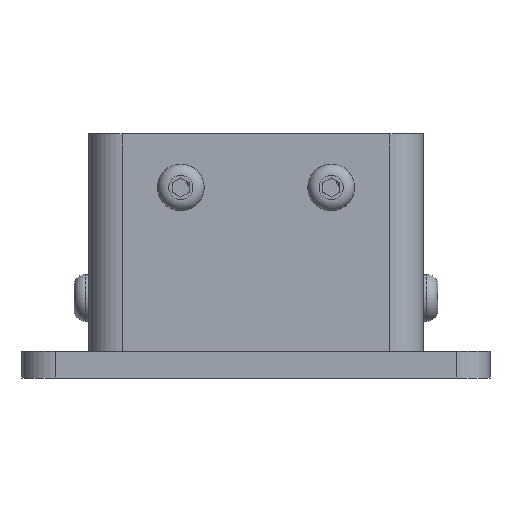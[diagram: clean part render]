
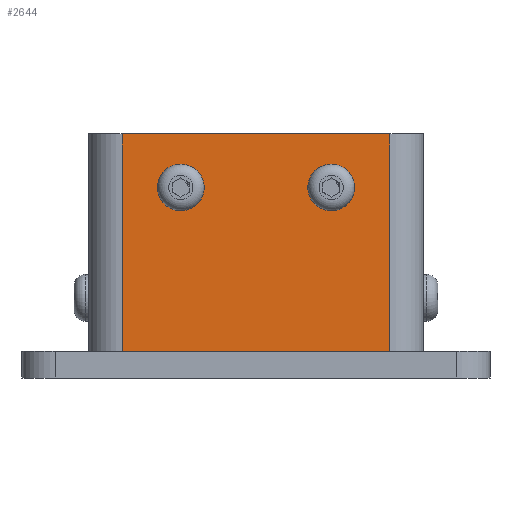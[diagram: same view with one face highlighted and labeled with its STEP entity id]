
A CAD part, left-side view. The second image highlights one B-rep face of the part: STEP entity #2644.
In plain terms, the highlighted planar face has unit normal (-1, 0, 0) as drawn and (0, 1, 0) by its records, which use the part's own axes.
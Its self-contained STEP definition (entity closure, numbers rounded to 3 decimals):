
#199=FACE_BOUND('',#698,.T.);
#200=FACE_BOUND('',#699,.T.);
#272=CIRCLE('',#2998,4.5);
#277=CIRCLE('',#3005,4.5);
#530=FACE_OUTER_BOUND('',#697,.T.);
#697=EDGE_LOOP('',(#2192,#2193,#2194,#2195));
#698=EDGE_LOOP('',(#2196));
#699=EDGE_LOOP('',(#2197));
#897=LINE('',#4540,#1087);
#913=LINE('',#4592,#1103);
#914=LINE('',#4596,#1104);
#915=LINE('',#4597,#1105);
#1087=VECTOR('',#3672,10.);
#1103=VECTOR('',#3732,10.);
#1104=VECTOR('',#3737,10.);
#1105=VECTOR('',#3738,10.);
#1229=VERTEX_POINT('',#4356);
#1234=VERTEX_POINT('',#4370);
#1295=VERTEX_POINT('',#4537);
#1296=VERTEX_POINT('',#4539);
#1310=VERTEX_POINT('',#4591);
#1311=VERTEX_POINT('',#4595);
#1515=EDGE_CURVE('',#1229,#1229,#272,.T.);
#1522=EDGE_CURVE('',#1234,#1234,#277,.T.);
#1605=EDGE_CURVE('',#1296,#1295,#897,.T.);
#1632=EDGE_CURVE('',#1310,#1296,#913,.T.);
#1634=EDGE_CURVE('',#1311,#1295,#914,.T.);
#1635=EDGE_CURVE('',#1310,#1311,#915,.T.);
#2192=ORIENTED_EDGE('',*,*,#1605,.T.);
#2193=ORIENTED_EDGE('',*,*,#1634,.F.);
#2194=ORIENTED_EDGE('',*,*,#1635,.F.);
#2195=ORIENTED_EDGE('',*,*,#1632,.T.);
#2196=ORIENTED_EDGE('',*,*,#1515,.T.);
#2197=ORIENTED_EDGE('',*,*,#1522,.T.);
#2537=PLANE('',#3084);
#2644=ADVANCED_FACE('',(#530,#199,#200),#2537,.T.);
#2998=AXIS2_PLACEMENT_3D('',#4358,#3494,#3495);
#3005=AXIS2_PLACEMENT_3D('',#4372,#3510,#3511);
#3084=AXIS2_PLACEMENT_3D('',#4594,#3735,#3736);
#3494=DIRECTION('center_axis',(0.,-1.,0.));
#3495=DIRECTION('ref_axis',(1.,0.,0.));
#3510=DIRECTION('center_axis',(0.,-1.,0.));
#3511=DIRECTION('ref_axis',(1.,0.,0.));
#3672=DIRECTION('',(1.,0.,0.));
#3732=DIRECTION('',(0.,0.,1.));
#3735=DIRECTION('center_axis',(0.,1.,0.));
#3736=DIRECTION('ref_axis',(0.,0.,1.));
#3737=DIRECTION('',(0.,0.,1.));
#3738=DIRECTION('',(1.,0.,0.));
#4356=CARTESIAN_POINT('',(-27.,90.,49.));
#4358=CARTESIAN_POINT('Origin',(-22.5,90.,49.));
#4370=CARTESIAN_POINT('',(18.,90.,49.));
#4372=CARTESIAN_POINT('Origin',(22.5,90.,49.));
#4537=CARTESIAN_POINT('',(40.,90.,65.));
#4539=CARTESIAN_POINT('',(-40.,90.,65.));
#4540=CARTESIAN_POINT('',(-20.,90.,65.));
#4591=CARTESIAN_POINT('',(-40.,90.,0.));
#4592=CARTESIAN_POINT('',(-40.,90.,0.));
#4594=CARTESIAN_POINT('Origin',(-40.,90.,0.));
#4595=CARTESIAN_POINT('',(40.,90.,0.));
#4596=CARTESIAN_POINT('',(40.,90.,0.));
#4597=CARTESIAN_POINT('',(-20.,90.,0.));
